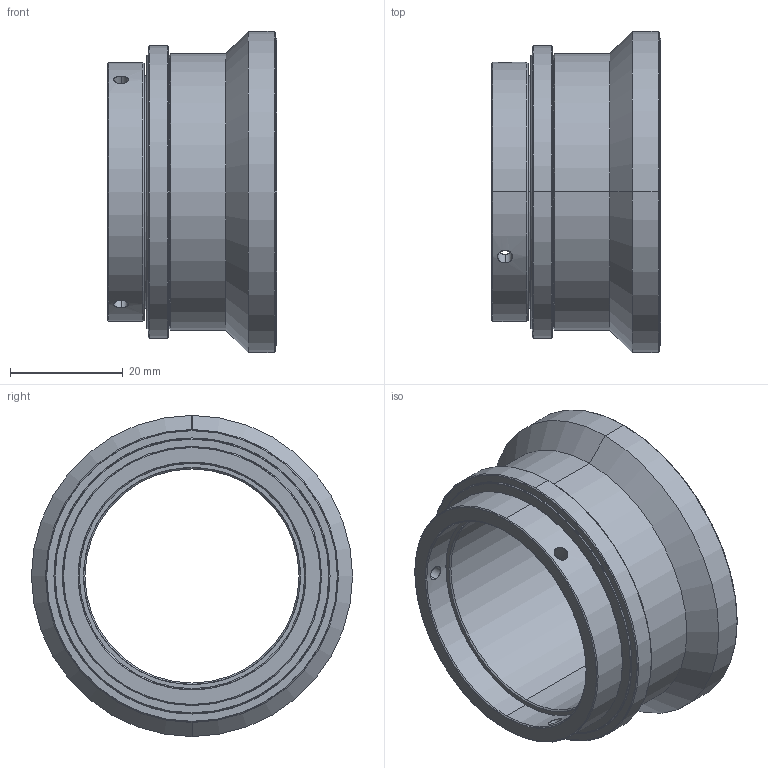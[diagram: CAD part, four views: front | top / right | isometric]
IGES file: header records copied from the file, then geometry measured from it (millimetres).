
Start section: SolidWorks IGES file using analytic representation for surfaces
Bounding box: 30 x 57 x 57 mm (x, y, z)
Surface area: 13039.9 mm2 (no closed solid volume)
Topology: 0 solids, 0 shells, 66 faces, 1780 edges, 1780 vertices
Faces by surface type: revolution 56, bspline 10
